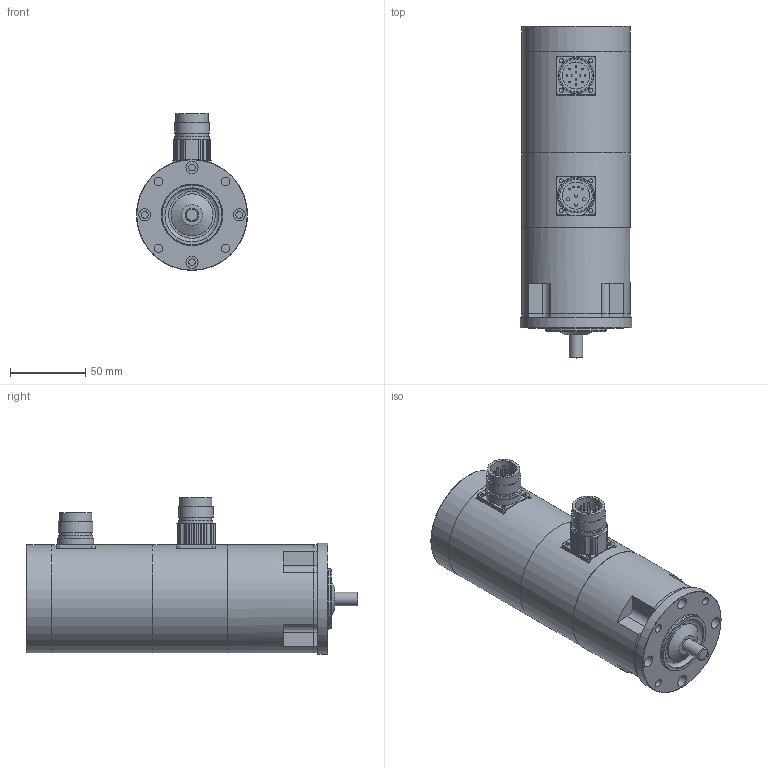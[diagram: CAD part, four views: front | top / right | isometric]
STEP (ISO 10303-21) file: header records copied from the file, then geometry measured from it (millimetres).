
FILE_DESCRIPTION(/* description */ (''),/* implementation_level */ '2;1');
FILE_NAME(/* name */ 'ksy_164e_md_rx',/* time_stamp */ '2007-03-16T13:10:37+01:00',/* author */ (''),/* organization */ (''),/* preprocessor_version */ 'ST-DEVELOPER v8',/* originating_system */ 'UNIGRAPHICS SOLUTIONS - UNIGRAPHICS 18.0',/* authorisation */ '');
FILE_SCHEMA (('AUTOMOTIVE_DESIGN { 1 2 10303 214 0 1 1 1 }'));
Length unit declared in the file: millimetre
Products named in the file (11): 014261_0; 014260_0; 064311_0; 064310_0; 111022_0; 06330401_0; DIN3760_org_A10x24x7_0; Rotor_SY 16.. E_0; Gehaeuse_SY 16.. E_0; 111014_0; KSY164_E-MD-RC_0
Assembly tree (10 placements, depth 2):
  KSY164_E-MD-RC_0
    111014_0
    Gehaeuse_SY 16.. E_0
    Rotor_SY 16.. E_0
    DIN3760_org_A10x24x7_0
    06330401_0
    111022_0
    064310_0
    064311_0
    014260_0
    014261_0
Bounding box: 74 x 221 x 104.5 mm (x, y, z)
Volume: 706646.5 mm3; surface area: 113228.9 mm2
Topology: 10 solids, 10 shells, 287 faces, 724 edges, 467 vertices
Faces by surface type: cylinder 152, plane 92, sphere 20, cone 14, torus 9
Full cylindrical faces by diameter (mm): 1 x16, 2 x4, 2.7 x8, 4.5 x4, 5.5 x4, 8 x4, 8.52 x1, 8.95 x1, 9 x1, 10 x2, 10.3 x1, 18 x2, 20 x5, 21 x3, 21.5 x2, 23 x4, 24 x3, 26 x1, 28 x1, 36 x1, 40 x1, 49.3 x1, 51 x3, 72 x4, 74 x1
Entity records: 7802 total; most frequent: DIRECTION 1456, CARTESIAN_POINT 1212, ORIENTED_EDGE 1026, AXIS2_PLACEMENT_3D 645, EDGE_CURVE 513, EDGE_LOOP 480, VERTEX_POINT 401, CIRCLE 347
